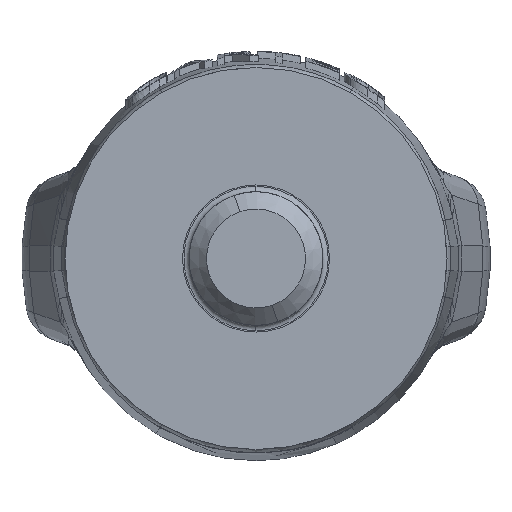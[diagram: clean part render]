
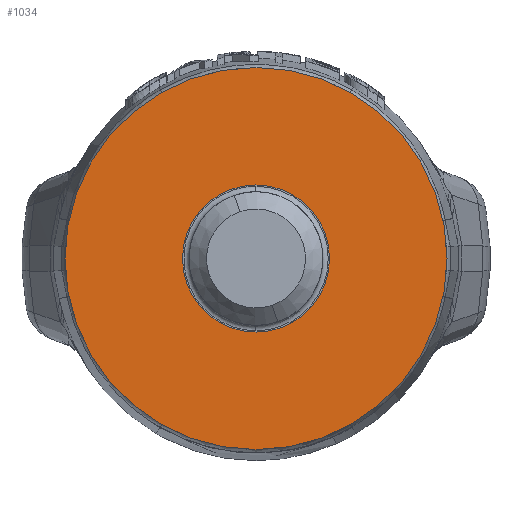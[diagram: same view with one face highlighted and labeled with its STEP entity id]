
A CAD part, front view. The second image highlights one B-rep face of the part: STEP entity #1034.
In plain terms, the highlighted planar face has unit normal (0, -1, 0).
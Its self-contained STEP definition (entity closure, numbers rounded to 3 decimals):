
#1034=ADVANCED_FACE('',(#2058,#2059),#2060,.F.);
#2058=FACE_OUTER_BOUND('',#7444,.T.);
#2059=FACE_BOUND('',#7445,.T.);
#2060=PLANE('',#7446);
#7444=EDGE_LOOP('',(#10063,#10064));
#7445=EDGE_LOOP('',(#10065,#10066));
#7446=AXIS2_PLACEMENT_3D('',#10067,#10068,#10069);
#10063=ORIENTED_EDGE('',*,*,#11285,.T.);
#10064=ORIENTED_EDGE('',*,*,#11275,.T.);
#10065=ORIENTED_EDGE('',*,*,#11278,.T.);
#10066=ORIENTED_EDGE('',*,*,#11283,.T.);
#10067=CARTESIAN_POINT('',(0.,-48.0,0.0));
#10068=DIRECTION('',(0.0,1.0,0.0));
#10069=DIRECTION('',(1.0,0.0,-0.0));
#11275=EDGE_CURVE('',#13053,#13057,#13059,.T.);
#11278=EDGE_CURVE('',#13064,#13061,#13065,.T.);
#11283=EDGE_CURVE('',#13061,#13064,#13071,.T.);
#11285=EDGE_CURVE('',#13057,#13053,#13073,.T.);
#13053=VERTEX_POINT('',#19807);
#13057=VERTEX_POINT('',#19812);
#13059=CIRCLE('',#19815,28.576);
#13061=VERTEX_POINT('',#19817);
#13064=VERTEX_POINT('',#19821);
#13065=CIRCLE('',#19822,11.0);
#13071=CIRCLE('',#19829,11.0);
#13073=CIRCLE('',#19831,28.576);
#19807=CARTESIAN_POINT('',(-28.576,-48.0,0.));
#19812=CARTESIAN_POINT('',(28.576,-48.0,0.));
#19815=AXIS2_PLACEMENT_3D('',#20961,#20962,#20963);
#19817=CARTESIAN_POINT('',(-11.0,-48.0,0.));
#19821=CARTESIAN_POINT('',(11.0,-48.0,0.));
#19822=AXIS2_PLACEMENT_3D('',#20965,#20966,#20967);
#19829=AXIS2_PLACEMENT_3D('',#20975,#20976,#20977);
#19831=AXIS2_PLACEMENT_3D('',#20978,#20979,#20980);
#20961=CARTESIAN_POINT('',(0.0,-48.0,0.0));
#20962=DIRECTION('',(0.0,-1.0,-0.0));
#20963=DIRECTION('',(-1.0,0.0,0.));
#20965=CARTESIAN_POINT('',(0.0,-48.0,0.0));
#20966=DIRECTION('',(0.0,1.0,0.0));
#20967=DIRECTION('',(-1.0,0.0,0.));
#20975=CARTESIAN_POINT('',(0.0,-48.0,0.0));
#20976=DIRECTION('',(0.0,1.0,0.0));
#20977=DIRECTION('',(-1.0,0.0,0.));
#20978=CARTESIAN_POINT('',(0.0,-48.0,0.0));
#20979=DIRECTION('',(0.0,-1.0,-0.0));
#20980=DIRECTION('',(-1.0,0.0,0.));
